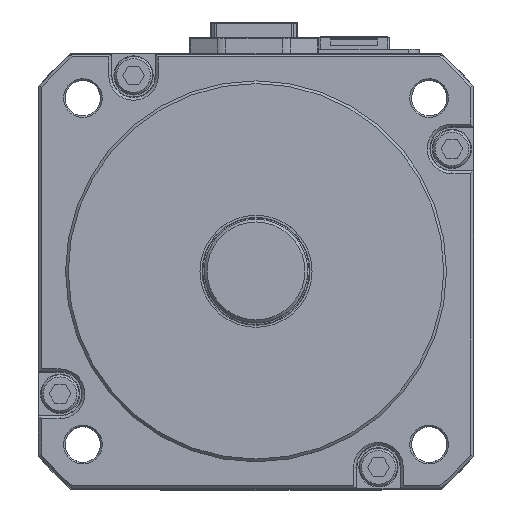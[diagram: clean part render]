
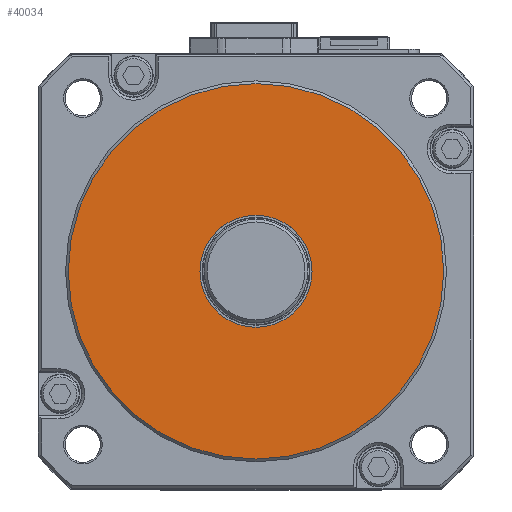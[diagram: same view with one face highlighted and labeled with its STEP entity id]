
A CAD part, top view. The second image highlights one B-rep face of the part: STEP entity #40034.
In plain terms, the highlighted planar face has unit normal (0, 0, 1).
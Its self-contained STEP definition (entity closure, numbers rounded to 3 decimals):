
#1290 = FACE_OUTER_BOUND ( 'NONE', #69036, .T. ) ;
#3117 = CARTESIAN_POINT ( 'NONE',  ( 34.5, 0., 13. ) ) ;
#4608 = ORIENTED_EDGE ( 'NONE', *, *, #66008, .F. ) ;
#12009 = DIRECTION ( 'NONE',  ( 1., 0., 0. ) ) ;
#17377 = DIRECTION ( 'NONE',  ( 0., 0., 1. ) ) ;
#18060 = DIRECTION ( 'NONE',  ( 1., 0., 0. ) ) ;
#18413 = FACE_BOUND ( 'NONE', #53514, .T. ) ;
#21652 = ORIENTED_EDGE ( 'NONE', *, *, #49842, .T. ) ;
#23039 = CARTESIAN_POINT ( 'NONE',  ( 0., 0., 13. ) ) ;
#23391 = PLANE ( 'NONE',  #61237 ) ;
#30297 = VERTEX_POINT ( 'NONE', #3117 ) ;
#33113 = CIRCLE ( 'NONE', #54699, 34.5 ) ;
#40034 = ADVANCED_FACE ( 'NONE', ( #18413, #1290 ), #23391, .T. ) ;
#40860 = DIRECTION ( 'NONE',  ( 0., 0., 1. ) ) ;
#45207 = DIRECTION ( 'NONE',  ( 0., 0., 1. ) ) ;
#46256 = CARTESIAN_POINT ( 'NONE',  ( 0., 0., 13. ) ) ;
#48126 = VERTEX_POINT ( 'NONE', #63756 ) ;
#48325 = CIRCLE ( 'NONE', #64260, 10.3 ) ;
#49842 = EDGE_CURVE ( 'NONE', #30297, #30297, #33113, .T. ) ;
#53514 = EDGE_LOOP ( 'NONE', ( #4608 ) ) ;
#54699 = AXIS2_PLACEMENT_3D ( 'NONE', #46256, #40860, #59721 ) ;
#59721 = DIRECTION ( 'NONE',  ( 1., 0., 0. ) ) ;
#61237 = AXIS2_PLACEMENT_3D ( 'NONE', #66539, #45207, #12009 ) ;
#63756 = CARTESIAN_POINT ( 'NONE',  ( 10.3, 0., 13. ) ) ;
#64260 = AXIS2_PLACEMENT_3D ( 'NONE', #23039, #17377, #18060 ) ;
#66008 = EDGE_CURVE ( 'NONE', #48126, #48126, #48325, .T. ) ;
#66539 = CARTESIAN_POINT ( 'NONE',  ( 0., 0., 13. ) ) ;
#69036 = EDGE_LOOP ( 'NONE', ( #21652 ) ) ;
